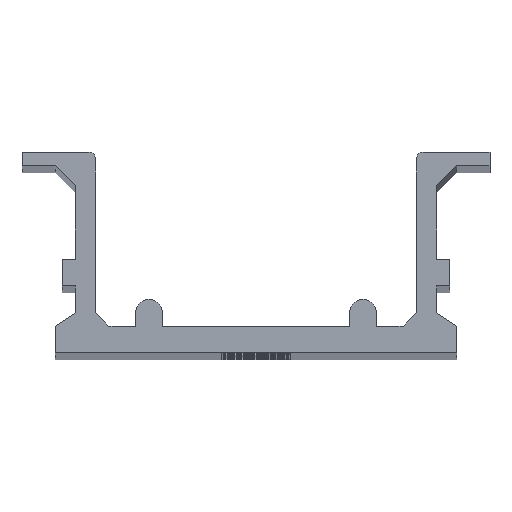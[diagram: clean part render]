
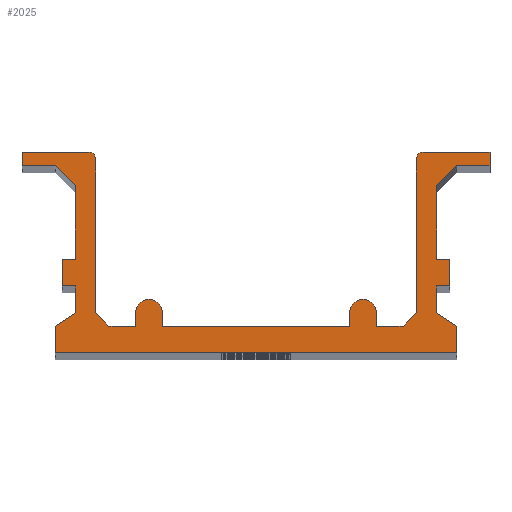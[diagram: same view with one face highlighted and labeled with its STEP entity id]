
A CAD part, top view. The second image highlights one B-rep face of the part: STEP entity #2025.
In plain terms, the highlighted planar face has unit normal (0, 0, 1).
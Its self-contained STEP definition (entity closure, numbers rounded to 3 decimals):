
#97=CIRCLE('',#2201,0.5);
#98=CIRCLE('',#2202,0.5);
#99=CIRCLE('',#2203,1.);
#100=CIRCLE('',#2204,1.);
#199=FACE_OUTER_BOUND('',#299,.T.);
#299=EDGE_LOOP('',(#1527,#1528,#1529,#1530,#1531,#1532,#1533,#1534,#1535,
#1536,#1537,#1538,#1539,#1540,#1541,#1542,#1543,#1544,#1545,#1546,#1547,
#1548,#1549,#1550,#1551,#1552,#1553,#1554,#1555,#1556,#1557,#1558,#1559,
#1560,#1561,#1562,#1563,#1564));
#481=LINE('',#3144,#707);
#482=LINE('',#3146,#708);
#483=LINE('',#3148,#709);
#484=LINE('',#3152,#710);
#485=LINE('',#3154,#711);
#486=LINE('',#3156,#712);
#487=LINE('',#3158,#713);
#488=LINE('',#3160,#714);
#489=LINE('',#3162,#715);
#490=LINE('',#3164,#716);
#491=LINE('',#3166,#717);
#492=LINE('',#3168,#718);
#493=LINE('',#3170,#719);
#494=LINE('',#3172,#720);
#495=LINE('',#3174,#721);
#496=LINE('',#3176,#722);
#497=LINE('',#3178,#723);
#498=LINE('',#3180,#724);
#499=LINE('',#3182,#725);
#500=LINE('',#3184,#726);
#501=LINE('',#3186,#727);
#502=LINE('',#3188,#728);
#503=LINE('',#3190,#729);
#504=LINE('',#3192,#730);
#505=LINE('',#3194,#731);
#506=LINE('',#3196,#732);
#507=LINE('',#3200,#733);
#508=LINE('',#3202,#734);
#509=LINE('',#3204,#735);
#510=LINE('',#3206,#736);
#511=LINE('',#3210,#737);
#512=LINE('',#3212,#738);
#513=LINE('',#3214,#739);
#514=LINE('',#3217,#740);
#707=VECTOR('',#2580,10.);
#708=VECTOR('',#2581,10.);
#709=VECTOR('',#2582,10.);
#710=VECTOR('',#2585,10.);
#711=VECTOR('',#2586,10.);
#712=VECTOR('',#2587,10.);
#713=VECTOR('',#2588,10.);
#714=VECTOR('',#2589,10.);
#715=VECTOR('',#2590,10.);
#716=VECTOR('',#2591,10.);
#717=VECTOR('',#2592,10.);
#718=VECTOR('',#2593,10.);
#719=VECTOR('',#2594,10.);
#720=VECTOR('',#2595,10.);
#721=VECTOR('',#2596,10.);
#722=VECTOR('',#2597,10.);
#723=VECTOR('',#2598,10.);
#724=VECTOR('',#2599,10.);
#725=VECTOR('',#2600,10.);
#726=VECTOR('',#2601,10.);
#727=VECTOR('',#2602,10.);
#728=VECTOR('',#2603,10.);
#729=VECTOR('',#2604,10.);
#730=VECTOR('',#2605,10.);
#731=VECTOR('',#2606,10.);
#732=VECTOR('',#2607,10.);
#733=VECTOR('',#2610,10.);
#734=VECTOR('',#2611,10.);
#735=VECTOR('',#2612,10.);
#736=VECTOR('',#2613,10.);
#737=VECTOR('',#2616,10.);
#738=VECTOR('',#2617,10.);
#739=VECTOR('',#2618,10.);
#740=VECTOR('',#2621,10.);
#933=VERTEX_POINT('',#3142);
#934=VERTEX_POINT('',#3143);
#935=VERTEX_POINT('',#3145);
#936=VERTEX_POINT('',#3147);
#937=VERTEX_POINT('',#3149);
#938=VERTEX_POINT('',#3151);
#939=VERTEX_POINT('',#3153);
#940=VERTEX_POINT('',#3155);
#941=VERTEX_POINT('',#3157);
#942=VERTEX_POINT('',#3159);
#943=VERTEX_POINT('',#3161);
#944=VERTEX_POINT('',#3163);
#945=VERTEX_POINT('',#3165);
#946=VERTEX_POINT('',#3167);
#947=VERTEX_POINT('',#3169);
#948=VERTEX_POINT('',#3171);
#949=VERTEX_POINT('',#3173);
#950=VERTEX_POINT('',#3175);
#951=VERTEX_POINT('',#3177);
#952=VERTEX_POINT('',#3179);
#953=VERTEX_POINT('',#3181);
#954=VERTEX_POINT('',#3183);
#955=VERTEX_POINT('',#3185);
#956=VERTEX_POINT('',#3187);
#957=VERTEX_POINT('',#3189);
#958=VERTEX_POINT('',#3191);
#959=VERTEX_POINT('',#3193);
#960=VERTEX_POINT('',#3195);
#961=VERTEX_POINT('',#3197);
#962=VERTEX_POINT('',#3199);
#963=VERTEX_POINT('',#3201);
#964=VERTEX_POINT('',#3203);
#965=VERTEX_POINT('',#3205);
#966=VERTEX_POINT('',#3207);
#967=VERTEX_POINT('',#3209);
#968=VERTEX_POINT('',#3211);
#969=VERTEX_POINT('',#3213);
#970=VERTEX_POINT('',#3215);
#1181=EDGE_CURVE('',#933,#934,#481,.T.);
#1182=EDGE_CURVE('',#934,#935,#482,.T.);
#1183=EDGE_CURVE('',#935,#936,#483,.T.);
#1184=EDGE_CURVE('',#936,#937,#97,.T.);
#1185=EDGE_CURVE('',#937,#938,#484,.T.);
#1186=EDGE_CURVE('',#938,#939,#485,.T.);
#1187=EDGE_CURVE('',#939,#940,#486,.T.);
#1188=EDGE_CURVE('',#940,#941,#487,.T.);
#1189=EDGE_CURVE('',#941,#942,#488,.T.);
#1190=EDGE_CURVE('',#942,#943,#489,.T.);
#1191=EDGE_CURVE('',#943,#944,#490,.T.);
#1192=EDGE_CURVE('',#944,#945,#491,.T.);
#1193=EDGE_CURVE('',#945,#946,#492,.T.);
#1194=EDGE_CURVE('',#946,#947,#493,.T.);
#1195=EDGE_CURVE('',#947,#948,#494,.T.);
#1196=EDGE_CURVE('',#948,#949,#495,.T.);
#1197=EDGE_CURVE('',#949,#950,#496,.T.);
#1198=EDGE_CURVE('',#950,#951,#497,.T.);
#1199=EDGE_CURVE('',#951,#952,#498,.T.);
#1200=EDGE_CURVE('',#952,#953,#499,.T.);
#1201=EDGE_CURVE('',#953,#954,#500,.T.);
#1202=EDGE_CURVE('',#954,#955,#501,.T.);
#1203=EDGE_CURVE('',#955,#956,#502,.T.);
#1204=EDGE_CURVE('',#956,#957,#503,.T.);
#1205=EDGE_CURVE('',#957,#958,#504,.T.);
#1206=EDGE_CURVE('',#958,#959,#505,.T.);
#1207=EDGE_CURVE('',#959,#960,#506,.T.);
#1208=EDGE_CURVE('',#960,#961,#98,.T.);
#1209=EDGE_CURVE('',#961,#962,#507,.T.);
#1210=EDGE_CURVE('',#962,#963,#508,.T.);
#1211=EDGE_CURVE('',#963,#964,#509,.T.);
#1212=EDGE_CURVE('',#964,#965,#510,.T.);
#1213=EDGE_CURVE('',#965,#966,#99,.T.);
#1214=EDGE_CURVE('',#966,#967,#511,.T.);
#1215=EDGE_CURVE('',#967,#968,#512,.T.);
#1216=EDGE_CURVE('',#968,#969,#513,.T.);
#1217=EDGE_CURVE('',#969,#970,#100,.T.);
#1218=EDGE_CURVE('',#970,#933,#514,.T.);
#1527=ORIENTED_EDGE('',*,*,#1181,.T.);
#1528=ORIENTED_EDGE('',*,*,#1182,.T.);
#1529=ORIENTED_EDGE('',*,*,#1183,.T.);
#1530=ORIENTED_EDGE('',*,*,#1184,.T.);
#1531=ORIENTED_EDGE('',*,*,#1185,.T.);
#1532=ORIENTED_EDGE('',*,*,#1186,.T.);
#1533=ORIENTED_EDGE('',*,*,#1187,.T.);
#1534=ORIENTED_EDGE('',*,*,#1188,.T.);
#1535=ORIENTED_EDGE('',*,*,#1189,.T.);
#1536=ORIENTED_EDGE('',*,*,#1190,.T.);
#1537=ORIENTED_EDGE('',*,*,#1191,.T.);
#1538=ORIENTED_EDGE('',*,*,#1192,.T.);
#1539=ORIENTED_EDGE('',*,*,#1193,.T.);
#1540=ORIENTED_EDGE('',*,*,#1194,.T.);
#1541=ORIENTED_EDGE('',*,*,#1195,.T.);
#1542=ORIENTED_EDGE('',*,*,#1196,.T.);
#1543=ORIENTED_EDGE('',*,*,#1197,.T.);
#1544=ORIENTED_EDGE('',*,*,#1198,.T.);
#1545=ORIENTED_EDGE('',*,*,#1199,.T.);
#1546=ORIENTED_EDGE('',*,*,#1200,.T.);
#1547=ORIENTED_EDGE('',*,*,#1201,.T.);
#1548=ORIENTED_EDGE('',*,*,#1202,.T.);
#1549=ORIENTED_EDGE('',*,*,#1203,.T.);
#1550=ORIENTED_EDGE('',*,*,#1204,.T.);
#1551=ORIENTED_EDGE('',*,*,#1205,.T.);
#1552=ORIENTED_EDGE('',*,*,#1206,.T.);
#1553=ORIENTED_EDGE('',*,*,#1207,.T.);
#1554=ORIENTED_EDGE('',*,*,#1208,.T.);
#1555=ORIENTED_EDGE('',*,*,#1209,.T.);
#1556=ORIENTED_EDGE('',*,*,#1210,.T.);
#1557=ORIENTED_EDGE('',*,*,#1211,.T.);
#1558=ORIENTED_EDGE('',*,*,#1212,.T.);
#1559=ORIENTED_EDGE('',*,*,#1213,.T.);
#1560=ORIENTED_EDGE('',*,*,#1214,.T.);
#1561=ORIENTED_EDGE('',*,*,#1215,.T.);
#1562=ORIENTED_EDGE('',*,*,#1216,.T.);
#1563=ORIENTED_EDGE('',*,*,#1217,.T.);
#1564=ORIENTED_EDGE('',*,*,#1218,.T.);
#1933=PLANE('',#2200);
#2025=ADVANCED_FACE('',(#199),#1933,.T.);
#2200=AXIS2_PLACEMENT_3D('',#3141,#2578,#2579);
#2201=AXIS2_PLACEMENT_3D('',#3150,#2583,#2584);
#2202=AXIS2_PLACEMENT_3D('',#3198,#2608,#2609);
#2203=AXIS2_PLACEMENT_3D('',#3208,#2614,#2615);
#2204=AXIS2_PLACEMENT_3D('',#3216,#2619,#2620);
#2578=DIRECTION('center_axis',(0.,0.,1.));
#2579=DIRECTION('ref_axis',(1.,0.,0.));
#2580=DIRECTION('',(-1.,0.,0.));
#2581=DIRECTION('',(-0.707,0.707,0.));
#2582=DIRECTION('',(0.,1.,0.));
#2583=DIRECTION('center_axis',(0.,0.,1.));
#2584=DIRECTION('ref_axis',(1.,0.,0.));
#2585=DIRECTION('',(-1.,0.,0.));
#2586=DIRECTION('',(0.,-1.,0.));
#2587=DIRECTION('',(1.,0.,0.));
#2588=DIRECTION('',(0.707,-0.707,0.));
#2589=DIRECTION('',(0.,-1.,0.));
#2590=DIRECTION('',(-1.,0.,0.));
#2591=DIRECTION('',(0.,-1.,0.));
#2592=DIRECTION('',(1.,0.,0.));
#2593=DIRECTION('',(0.,-1.,0.));
#2594=DIRECTION('',(-0.832,-0.555,0.));
#2595=DIRECTION('',(0.,-1.,0.));
#2596=DIRECTION('',(1.,0.,0.));
#2597=DIRECTION('',(0.,1.,0.));
#2598=DIRECTION('',(-0.832,0.555,0.));
#2599=DIRECTION('',(0.,1.,0.));
#2600=DIRECTION('',(1.,0.,0.));
#2601=DIRECTION('',(0.,1.,0.));
#2602=DIRECTION('',(-1.,0.,0.));
#2603=DIRECTION('',(0.,1.,0.));
#2604=DIRECTION('',(0.707,0.707,0.));
#2605=DIRECTION('',(1.,0.,0.));
#2606=DIRECTION('',(0.,1.,0.));
#2607=DIRECTION('',(-1.,0.,0.));
#2608=DIRECTION('center_axis',(0.,0.,1.));
#2609=DIRECTION('ref_axis',(0.,1.,0.));
#2610=DIRECTION('',(0.,-1.,0.));
#2611=DIRECTION('',(-0.707,-0.707,0.));
#2612=DIRECTION('',(-1.,0.,0.));
#2613=DIRECTION('',(0.,1.,0.));
#2614=DIRECTION('center_axis',(0.,0.,1.));
#2615=DIRECTION('ref_axis',(1.,0.,0.));
#2616=DIRECTION('',(0.,-1.,0.));
#2617=DIRECTION('',(-1.,0.,0.));
#2618=DIRECTION('',(0.,1.,0.));
#2619=DIRECTION('center_axis',(0.,0.,1.));
#2620=DIRECTION('ref_axis',(1.,0.,0.));
#2621=DIRECTION('',(0.,-1.,0.));
#3141=CARTESIAN_POINT('Origin',(0.,7.5,297.));
#3142=CARTESIAN_POINT('',(-9.,2.,297.));
#3143=CARTESIAN_POINT('',(-11.,2.,297.));
#3144=CARTESIAN_POINT('',(-9.,2.,297.));
#3145=CARTESIAN_POINT('',(-12.,3.,297.));
#3146=CARTESIAN_POINT('',(-11.,2.,297.));
#3147=CARTESIAN_POINT('',(-12.,14.5,297.));
#3148=CARTESIAN_POINT('',(-12.,3.,297.));
#3149=CARTESIAN_POINT('',(-12.5,15.,297.));
#3150=CARTESIAN_POINT('Origin',(-12.5,14.5,297.));
#3151=CARTESIAN_POINT('',(-17.5,15.,297.));
#3152=CARTESIAN_POINT('',(-12.5,15.,297.));
#3153=CARTESIAN_POINT('',(-17.5,14.,297.));
#3154=CARTESIAN_POINT('',(-17.5,15.,297.));
#3155=CARTESIAN_POINT('',(-15.,14.,297.));
#3156=CARTESIAN_POINT('',(-17.5,14.,297.));
#3157=CARTESIAN_POINT('',(-13.5,12.5,297.));
#3158=CARTESIAN_POINT('',(-15.,14.,297.));
#3159=CARTESIAN_POINT('',(-13.5,7.,297.));
#3160=CARTESIAN_POINT('',(-13.5,12.5,297.));
#3161=CARTESIAN_POINT('',(-14.5,7.,297.));
#3162=CARTESIAN_POINT('',(-13.5,7.,297.));
#3163=CARTESIAN_POINT('',(-14.5,5.,297.));
#3164=CARTESIAN_POINT('',(-14.5,7.,297.));
#3165=CARTESIAN_POINT('',(-13.5,5.,297.));
#3166=CARTESIAN_POINT('',(-14.5,5.,297.));
#3167=CARTESIAN_POINT('',(-13.5,3.,297.));
#3168=CARTESIAN_POINT('',(-13.5,5.,297.));
#3169=CARTESIAN_POINT('',(-15.,2.,297.));
#3170=CARTESIAN_POINT('',(-13.5,3.,297.));
#3171=CARTESIAN_POINT('',(-15.,0.,297.));
#3172=CARTESIAN_POINT('',(-15.,2.,297.));
#3173=CARTESIAN_POINT('',(15.,0.,297.));
#3174=CARTESIAN_POINT('',(-15.,0.,297.));
#3175=CARTESIAN_POINT('',(15.,2.,297.));
#3176=CARTESIAN_POINT('',(15.,0.,297.));
#3177=CARTESIAN_POINT('',(13.5,3.,297.));
#3178=CARTESIAN_POINT('',(15.,2.,297.));
#3179=CARTESIAN_POINT('',(13.5,5.,297.));
#3180=CARTESIAN_POINT('',(13.5,3.,297.));
#3181=CARTESIAN_POINT('',(14.5,5.,297.));
#3182=CARTESIAN_POINT('',(13.5,5.,297.));
#3183=CARTESIAN_POINT('',(14.5,7.,297.));
#3184=CARTESIAN_POINT('',(14.5,5.,297.));
#3185=CARTESIAN_POINT('',(13.5,7.,297.));
#3186=CARTESIAN_POINT('',(14.5,7.,297.));
#3187=CARTESIAN_POINT('',(13.5,12.5,297.));
#3188=CARTESIAN_POINT('',(13.5,7.,297.));
#3189=CARTESIAN_POINT('',(15.,14.,297.));
#3190=CARTESIAN_POINT('',(13.5,12.5,297.));
#3191=CARTESIAN_POINT('',(17.5,14.,297.));
#3192=CARTESIAN_POINT('',(15.,14.,297.));
#3193=CARTESIAN_POINT('',(17.5,15.,297.));
#3194=CARTESIAN_POINT('',(17.5,14.,297.));
#3195=CARTESIAN_POINT('',(12.5,15.,297.));
#3196=CARTESIAN_POINT('',(17.5,15.,297.));
#3197=CARTESIAN_POINT('',(12.,14.5,297.));
#3198=CARTESIAN_POINT('Origin',(12.5,14.5,297.));
#3199=CARTESIAN_POINT('',(12.,3.,297.));
#3200=CARTESIAN_POINT('',(12.,14.5,297.));
#3201=CARTESIAN_POINT('',(11.,2.,297.));
#3202=CARTESIAN_POINT('',(12.,3.,297.));
#3203=CARTESIAN_POINT('',(9.,2.,297.));
#3204=CARTESIAN_POINT('',(11.,2.,297.));
#3205=CARTESIAN_POINT('',(9.,3.,297.));
#3206=CARTESIAN_POINT('',(9.,2.,297.));
#3207=CARTESIAN_POINT('',(7.,3.,297.));
#3208=CARTESIAN_POINT('Origin',(8.,3.,297.));
#3209=CARTESIAN_POINT('',(7.,2.,297.));
#3210=CARTESIAN_POINT('',(7.,3.,297.));
#3211=CARTESIAN_POINT('',(-7.,2.,297.));
#3212=CARTESIAN_POINT('',(7.,2.,297.));
#3213=CARTESIAN_POINT('',(-7.,3.,297.));
#3214=CARTESIAN_POINT('',(-7.,2.,297.));
#3215=CARTESIAN_POINT('',(-9.,3.,297.));
#3216=CARTESIAN_POINT('Origin',(-8.,3.,297.));
#3217=CARTESIAN_POINT('',(-9.,3.,297.));
